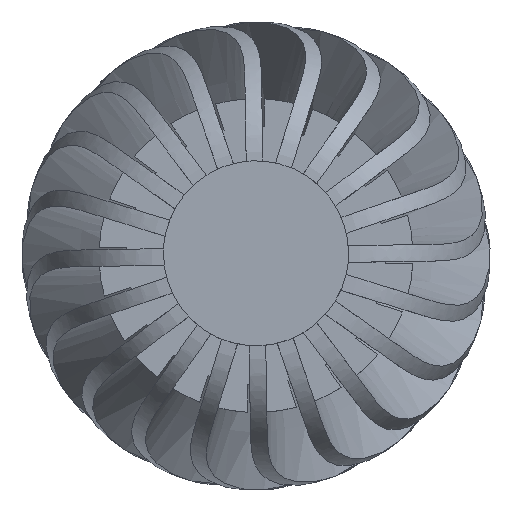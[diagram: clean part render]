
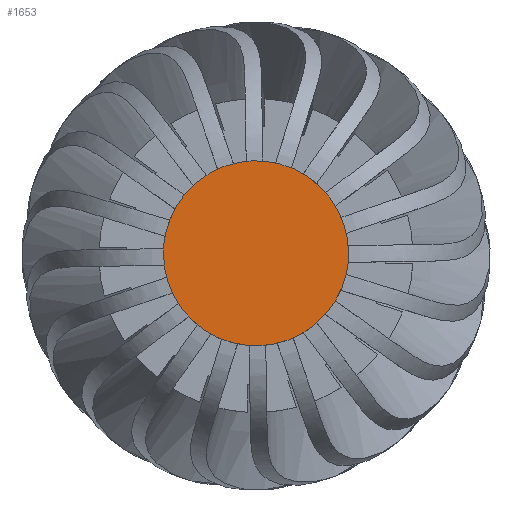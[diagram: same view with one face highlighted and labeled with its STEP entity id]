
A CAD part, top view. The second image highlights one B-rep face of the part: STEP entity #1653.
In plain terms, the highlighted planar face has unit normal (0, 0, 1).
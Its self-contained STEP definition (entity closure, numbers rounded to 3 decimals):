
#1653=ADVANCED_FACE('',(#2285),#10071,.T.);
#2285=FACE_OUTER_BOUND('',#2917,.T.);
#2917=EDGE_LOOP('',(#3579,#3580));
#3579=ORIENTED_EDGE('',*,*,#6917,.T.);
#3580=ORIENTED_EDGE('',*,*,#6923,.T.);
#6917=EDGE_CURVE('',#8963,#8967,#8599,.T.);
#6923=EDGE_CURVE('',#8967,#8963,#8605,.T.);
#8599=(
BOUNDED_CURVE()
B_SPLINE_CURVE(2,(#11342,#11343,#11344,#11345,#11346),.UNSPECIFIED.,.F.,
 .F.)
B_SPLINE_CURVE_WITH_KNOTS((3,2,3),(0.,78.54,157.08),
 .UNSPECIFIED.)
CURVE()
GEOMETRIC_REPRESENTATION_ITEM()
RATIONAL_B_SPLINE_CURVE((1.,0.707,1.,0.707,1.))
REPRESENTATION_ITEM('')
);
#8605=(
BOUNDED_CURVE()
B_SPLINE_CURVE(2,(#11364,#11365,#11366,#11367,#11368),.UNSPECIFIED.,.F.,
 .F.)
B_SPLINE_CURVE_WITH_KNOTS((3,2,3),(157.08,235.619,314.159),
 .UNSPECIFIED.)
CURVE()
GEOMETRIC_REPRESENTATION_ITEM()
RATIONAL_B_SPLINE_CURVE((1.,0.707,1.,0.707,1.))
REPRESENTATION_ITEM('')
);
#8963=VERTEX_POINT('',#11336);
#8967=VERTEX_POINT('',#11340);
#10071=PLANE('',#10521);
#10521=AXIS2_PLACEMENT_3D('',#11303,#10883,$);
#10883=DIRECTION('',(0.,0.,1.));
#11303=CARTESIAN_POINT('',(-57.5,-62.5,975.));
#11336=CARTESIAN_POINT('',(55.,0.,975.));
#11340=CARTESIAN_POINT('',(-45.,0.,975.));
#11342=CARTESIAN_POINT('',(55.,0.,975.));
#11343=CARTESIAN_POINT('',(55.,50.,975.));
#11344=CARTESIAN_POINT('',(5.,50.,975.));
#11345=CARTESIAN_POINT('',(-45.,50.,975.));
#11346=CARTESIAN_POINT('',(-45.,0.,975.));
#11364=CARTESIAN_POINT('',(-45.,0.,975.));
#11365=CARTESIAN_POINT('',(-45.,-50.,975.));
#11366=CARTESIAN_POINT('',(5.,-50.,975.));
#11367=CARTESIAN_POINT('',(55.,-50.,975.));
#11368=CARTESIAN_POINT('',(55.,0.,975.));
